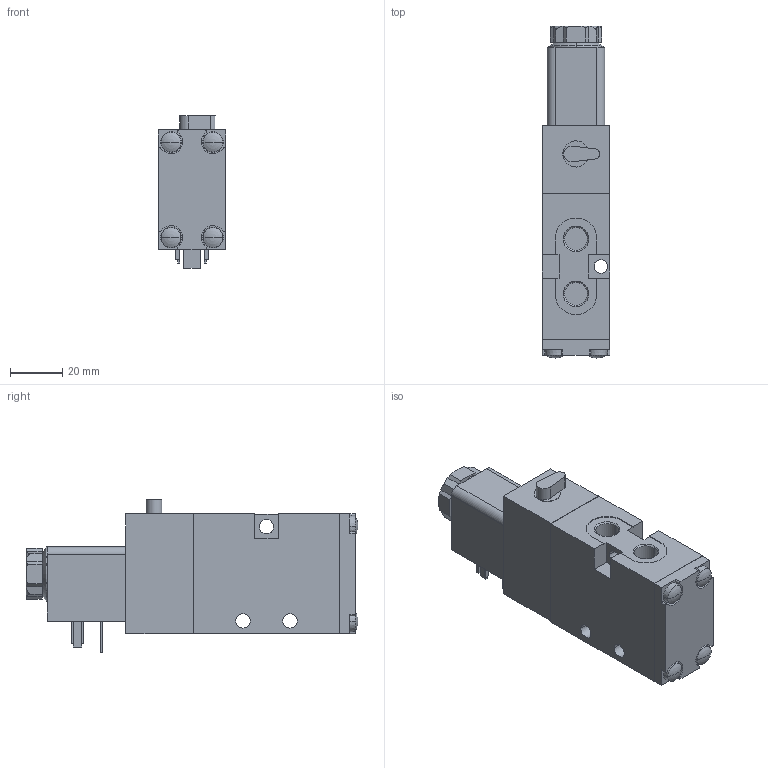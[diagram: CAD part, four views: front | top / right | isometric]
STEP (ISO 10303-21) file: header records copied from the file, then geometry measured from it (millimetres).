
FILE_DESCRIPTION((''),'2;1');
FILE_NAME('5777055270','2019-05-15T',('PDH2HC'),(''),'CREO PARAMETRIC BY PTC INC, 2016260','CREO PARAMETRIC BY PTC INC, 2016260','');
FILE_SCHEMA(('CONFIG_CONTROL_DESIGN'));
Length unit declared in the file: millimetre
Products named in the file (1): 5777055270
Bounding box: 26 x 127 x 58.5 mm (x, y, z)
Volume: 119244.2 mm3; surface area: 22568.8 mm2
Topology: 1 solids, 1 shells, 193 faces, 494 edges, 315 vertices
Faces by surface type: plane 112, cylinder 45, cone 24, sphere 8, torus 4
Entity records: 6105 total; most frequent: CARTESIAN_POINT 1322, DIRECTION 986, ORIENTED_EDGE 968, EDGE_CURVE 484, AXIS2_PLACEMENT_3D 331, VECTOR 324, LINE 324, VERTEX_POINT 315
